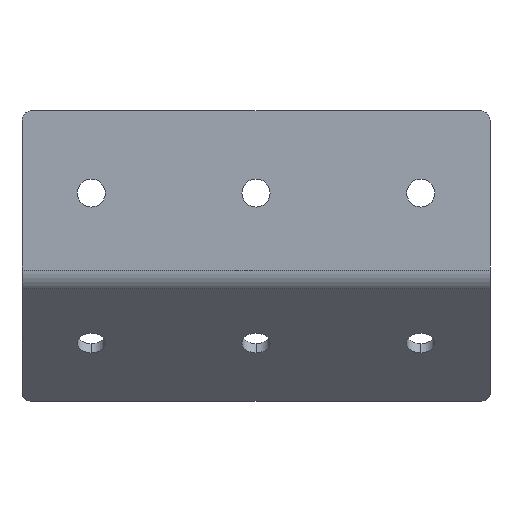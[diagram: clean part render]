
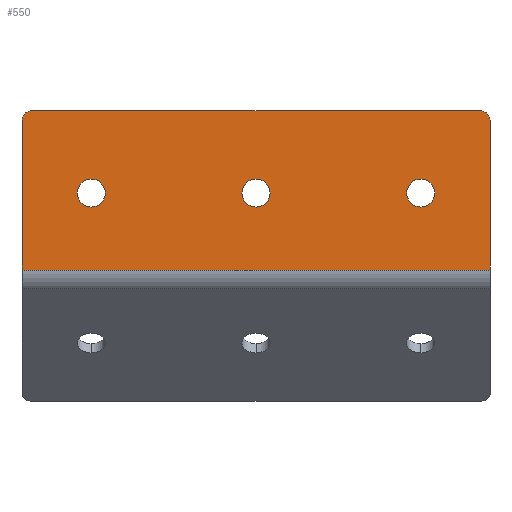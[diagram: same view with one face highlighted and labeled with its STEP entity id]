
A CAD part, front view. The second image highlights one B-rep face of the part: STEP entity #550.
In plain terms, the highlighted planar face has unit normal (0, -1, 0).
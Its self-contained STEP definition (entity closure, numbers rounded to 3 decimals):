
#9 = EDGE_CURVE ( 'NONE', #944, #256, #700, .T. ) ;
#10 = AXIS2_PLACEMENT_3D ( 'NONE', #114, #421, #721 ) ;
#23 = CARTESIAN_POINT ( 'NONE',  ( 71., -4., 0. ) ) ;
#27 = EDGE_CURVE ( 'NONE', #256, #766, #438, .T. ) ;
#33 = VERTEX_POINT ( 'NONE', #59 ) ;
#46 = DIRECTION ( 'NONE',  ( -1., 0., 0. ) ) ;
#51 = VERTEX_POINT ( 'NONE', #434 ) ;
#59 = CARTESIAN_POINT ( 'NONE',  ( 71., -4., 47. ) ) ;
#60 = DIRECTION ( 'NONE',  ( 0., 0., 1. ) ) ;
#64 = CARTESIAN_POINT ( 'NONE',  ( 71., -4., 50. ) ) ;
#66 = DIRECTION ( 'NONE',  ( 0., 0., 1. ) ) ;
#67 = VERTEX_POINT ( 'NONE', #887 ) ;
#86 = CARTESIAN_POINT ( 'NONE',  ( 71., -4., 1.657 ) ) ;
#92 = CARTESIAN_POINT ( 'NONE',  ( -71., -4., 1.657 ) ) ;
#95 = DIRECTION ( 'NONE',  ( 0., 0., 1. ) ) ;
#110 = CIRCLE ( 'NONE', #661, 4.25 ) ;
#114 = CARTESIAN_POINT ( 'NONE',  ( 71., -4., 0. ) ) ;
#118 = CARTESIAN_POINT ( 'NONE',  ( 0., -4., 20.75 ) ) ;
#120 = EDGE_CURVE ( 'NONE', #710, #594, #812, .T. ) ;
#128 = CIRCLE ( 'NONE', #251, 3. ) ;
#146 = VECTOR ( 'NONE', #46, 1000. ) ;
#150 = CARTESIAN_POINT ( 'NONE',  ( 0., -4., 25. ) ) ;
#173 = EDGE_LOOP ( 'NONE', ( #259, #532 ) ) ;
#184 = FACE_BOUND ( 'NONE', #173, .T. ) ;
#185 = CARTESIAN_POINT ( 'NONE',  ( -50., -4., 25. ) ) ;
#188 = CARTESIAN_POINT ( 'NONE',  ( -50., -4., 25. ) ) ;
#203 = EDGE_CURVE ( 'NONE', #594, #710, #714, .T. ) ;
#218 = VERTEX_POINT ( 'NONE', #602 ) ;
#245 = CARTESIAN_POINT ( 'NONE',  ( 68., -4., 47. ) ) ;
#251 = AXIS2_PLACEMENT_3D ( 'NONE', #245, #547, #856 ) ;
#256 = VERTEX_POINT ( 'NONE', #763 ) ;
#259 = ORIENTED_EDGE ( 'NONE', *, *, #939, .F. ) ;
#261 = VERTEX_POINT ( 'NONE', #86 ) ;
#266 = CARTESIAN_POINT ( 'NONE',  ( 50., -4., 25. ) ) ;
#283 = AXIS2_PLACEMENT_3D ( 'NONE', #185, #492, #797 ) ;
#286 = AXIS2_PLACEMENT_3D ( 'NONE', #150, #447, #752 ) ;
#288 = AXIS2_PLACEMENT_3D ( 'NONE', #775, #928, #66 ) ;
#294 = ORIENTED_EDGE ( 'NONE', *, *, #543, .F. ) ;
#304 = VECTOR ( 'NONE', #323, 1000. ) ;
#323 = DIRECTION ( 'NONE',  ( 0., 0., -1. ) ) ;
#331 = VERTEX_POINT ( 'NONE', #753 ) ;
#333 = ORIENTED_EDGE ( 'NONE', *, *, #830, .T. ) ;
#353 = ORIENTED_EDGE ( 'NONE', *, *, #683, .T. ) ;
#361 = DIRECTION ( 'NONE',  ( -1., 0., 0. ) ) ;
#371 = ORIENTED_EDGE ( 'NONE', *, *, #203, .F. ) ;
#380 = VECTOR ( 'NONE', #589, 1000. ) ;
#385 = AXIS2_PLACEMENT_3D ( 'NONE', #435, #739, #60 ) ;
#421 = DIRECTION ( 'NONE',  ( 0., 1., 0. ) ) ;
#426 = LINE ( 'NONE', #726, #146 ) ;
#434 = CARTESIAN_POINT ( 'NONE',  ( -50., -4., 20.75 ) ) ;
#435 = CARTESIAN_POINT ( 'NONE',  ( 0., -4., 25. ) ) ;
#436 = EDGE_CURVE ( 'NONE', #33, #261, #691, .T. ) ;
#438 = LINE ( 'NONE', #512, #380 ) ;
#444 = VERTEX_POINT ( 'NONE', #623 ) ;
#447 = DIRECTION ( 'NONE',  ( 0., -1., 0. ) ) ;
#473 = CARTESIAN_POINT ( 'NONE',  ( 50., -4., 25. ) ) ;
#484 = EDGE_LOOP ( 'NONE', ( #671, #333, #353, #571, #676, #934 ) ) ;
#491 = FACE_OUTER_BOUND ( 'NONE', #484, .T. ) ;
#492 = DIRECTION ( 'NONE',  ( 0., -1., 0. ) ) ;
#495 = DIRECTION ( 'NONE',  ( 0., -1., 0. ) ) ;
#507 = CIRCLE ( 'NONE', #627, 4.25 ) ;
#512 = CARTESIAN_POINT ( 'NONE',  ( -71., -4., 0. ) ) ;
#521 = EDGE_CURVE ( 'NONE', #51, #67, #826, .T. ) ;
#532 = ORIENTED_EDGE ( 'NONE', *, *, #521, .F. ) ;
#543 = EDGE_CURVE ( 'NONE', #331, #444, #110, .T. ) ;
#547 = DIRECTION ( 'NONE',  ( 0., -1., 0. ) ) ;
#550 = ADVANCED_FACE ( 'NONE', ( #561, #870, #184, #491 ), #796, .F. ) ;
#561 = FACE_BOUND ( 'NONE', #980, .T. ) ;
#567 = DIRECTION ( 'NONE',  ( 0., -1., 0. ) ) ;
#571 = ORIENTED_EDGE ( 'NONE', *, *, #9, .T. ) ;
#589 = DIRECTION ( 'NONE',  ( 0., 0., -1. ) ) ;
#594 = VERTEX_POINT ( 'NONE', #118 ) ;
#596 = EDGE_CURVE ( 'NONE', #261, #766, #426, .T. ) ;
#602 = CARTESIAN_POINT ( 'NONE',  ( 68., -4., 50. ) ) ;
#623 = CARTESIAN_POINT ( 'NONE',  ( 50., -4., 20.75 ) ) ;
#627 = AXIS2_PLACEMENT_3D ( 'NONE', #473, #778, #95 ) ;
#648 = CIRCLE ( 'NONE', #777, 4.25 ) ;
#654 = ORIENTED_EDGE ( 'NONE', *, *, #120, .F. ) ;
#661 = AXIS2_PLACEMENT_3D ( 'NONE', #266, #567, #875 ) ;
#670 = ORIENTED_EDGE ( 'NONE', *, *, #805, .F. ) ;
#671 = ORIENTED_EDGE ( 'NONE', *, *, #436, .F. ) ;
#676 = ORIENTED_EDGE ( 'NONE', *, *, #27, .T. ) ;
#683 = EDGE_CURVE ( 'NONE', #218, #944, #741, .T. ) ;
#691 = LINE ( 'NONE', #23, #304 ) ;
#700 = CIRCLE ( 'NONE', #288, 3. ) ;
#710 = VERTEX_POINT ( 'NONE', #970 ) ;
#714 = CIRCLE ( 'NONE', #286, 4.25 ) ;
#721 = DIRECTION ( 'NONE',  ( 0., 0., 1. ) ) ;
#724 = CARTESIAN_POINT ( 'NONE',  ( -68., -4., 50. ) ) ;
#726 = CARTESIAN_POINT ( 'NONE',  ( 71., -4., 1.657 ) ) ;
#739 = DIRECTION ( 'NONE',  ( 0., -1., 0. ) ) ;
#741 = LINE ( 'NONE', #64, #745 ) ;
#745 = VECTOR ( 'NONE', #361, 1000. ) ;
#752 = DIRECTION ( 'NONE',  ( 0., 0., 1. ) ) ;
#753 = CARTESIAN_POINT ( 'NONE',  ( 50., -4., 29.25 ) ) ;
#763 = CARTESIAN_POINT ( 'NONE',  ( -71., -4., 47. ) ) ;
#766 = VERTEX_POINT ( 'NONE', #92 ) ;
#775 = CARTESIAN_POINT ( 'NONE',  ( -68., -4., 47. ) ) ;
#777 = AXIS2_PLACEMENT_3D ( 'NONE', #188, #495, #798 ) ;
#778 = DIRECTION ( 'NONE',  ( 0., -1., 0. ) ) ;
#796 = PLANE ( 'NONE',  #10 ) ;
#797 = DIRECTION ( 'NONE',  ( 0., 0., 1. ) ) ;
#798 = DIRECTION ( 'NONE',  ( 0., 0., 1. ) ) ;
#805 = EDGE_CURVE ( 'NONE', #444, #331, #507, .T. ) ;
#812 = CIRCLE ( 'NONE', #385, 4.25 ) ;
#826 = CIRCLE ( 'NONE', #283, 4.25 ) ;
#830 = EDGE_CURVE ( 'NONE', #33, #218, #128, .T. ) ;
#856 = DIRECTION ( 'NONE',  ( 0., 0., 1. ) ) ;
#861 = EDGE_LOOP ( 'NONE', ( #294, #670 ) ) ;
#870 = FACE_BOUND ( 'NONE', #861, .T. ) ;
#875 = DIRECTION ( 'NONE',  ( 0., 0., 1. ) ) ;
#887 = CARTESIAN_POINT ( 'NONE',  ( -50., -4., 29.25 ) ) ;
#928 = DIRECTION ( 'NONE',  ( 0., -1., 0. ) ) ;
#934 = ORIENTED_EDGE ( 'NONE', *, *, #596, .F. ) ;
#939 = EDGE_CURVE ( 'NONE', #67, #51, #648, .T. ) ;
#944 = VERTEX_POINT ( 'NONE', #724 ) ;
#970 = CARTESIAN_POINT ( 'NONE',  ( 0., -4., 29.25 ) ) ;
#980 = EDGE_LOOP ( 'NONE', ( #654, #371 ) ) ;
